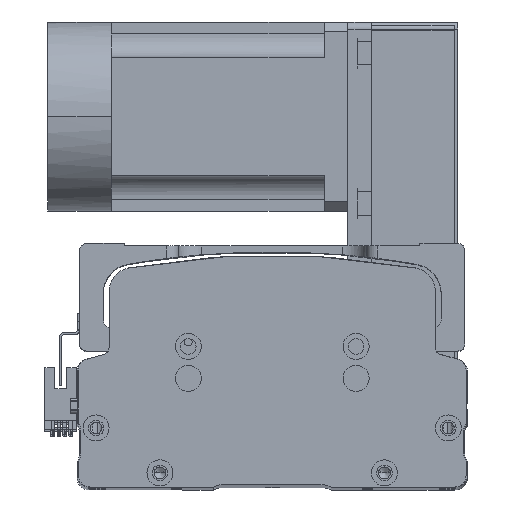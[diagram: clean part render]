
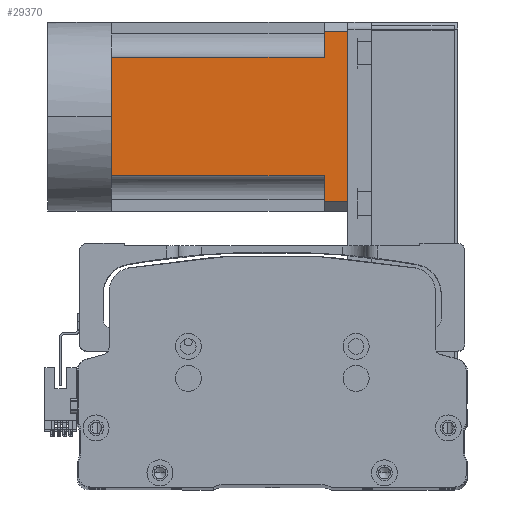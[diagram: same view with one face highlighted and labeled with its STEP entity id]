
A CAD part, top view. The second image highlights one B-rep face of the part: STEP entity #29370.
In plain terms, the highlighted planar face has unit normal (0, 0, 1) as drawn and (0, 0, -1) by its records, which use the part's own axes.
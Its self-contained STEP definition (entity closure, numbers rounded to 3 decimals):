
#1552 = LINE ( 'NONE', #14051, #51547 ) ;
#2871 = DIRECTION ( 'NONE',  ( -1., 0., 0. ) ) ;
#3395 = VECTOR ( 'NONE', #2871, 1000. ) ;
#4159 = EDGE_CURVE ( 'NONE', #24482, #9516, #4427, .T. ) ;
#4243 = VECTOR ( 'NONE', #59757, 1000. ) ;
#4427 = LINE ( 'NONE', #5441, #41479 ) ;
#4454 = CARTESIAN_POINT ( 'NONE',  ( 25., -27., -40. ) ) ;
#5357 = CARTESIAN_POINT ( 'NONE',  ( 25., 90., -40. ) ) ;
#5441 = CARTESIAN_POINT ( 'NONE',  ( 36., -27., -40. ) ) ;
#5910 = EDGE_CURVE ( 'NONE', #35119, #33433, #62437, .T. ) ;
#6355 = CARTESIAN_POINT ( 'NONE',  ( -40., 0., -40. ) ) ;
#7498 = ORIENTED_EDGE ( 'NONE', *, *, #42414, .T. ) ;
#8045 = DIRECTION ( 'NONE',  ( -1., 0., 0. ) ) ;
#8425 = ORIENTED_EDGE ( 'NONE', *, *, #54812, .T. ) ;
#9516 = VERTEX_POINT ( 'NONE', #43490 ) ;
#9900 = VERTEX_POINT ( 'NONE', #18074 ) ;
#9911 = VERTEX_POINT ( 'NONE', #47205 ) ;
#10065 = VERTEX_POINT ( 'NONE', #5357 ) ;
#10492 = ORIENTED_EDGE ( 'NONE', *, *, #5910, .T. ) ;
#10529 = EDGE_CURVE ( 'NONE', #10065, #58758, #36006, .T. ) ;
#11501 = CARTESIAN_POINT ( 'NONE',  ( -40., -27., -40. ) ) ;
#13024 = VECTOR ( 'NONE', #17657, 1000. ) ;
#14051 = CARTESIAN_POINT ( 'NONE',  ( -25., -27., -40. ) ) ;
#15742 = EDGE_CURVE ( 'NONE', #58758, #9911, #40478, .T. ) ;
#17102 = LINE ( 'NONE', #6355, #4243 ) ;
#17657 = DIRECTION ( 'NONE',  ( -1., 0., 0. ) ) ;
#18074 = CARTESIAN_POINT ( 'NONE',  ( -36., 100., -40. ) ) ;
#20455 = ORIENTED_EDGE ( 'NONE', *, *, #10529, .T. ) ;
#21152 = ORIENTED_EDGE ( 'NONE', *, *, #29517, .F. ) ;
#21169 = ORIENTED_EDGE ( 'NONE', *, *, #34540, .T. ) ;
#21233 = DIRECTION ( 'NONE',  ( 0., 0., -1. ) ) ;
#22352 = EDGE_LOOP ( 'NONE', ( #21152, #31120, #7498, #20455, #26362, #8425, #21169, #10492, #33470 ) ) ;
#23139 = VECTOR ( 'NONE', #38257, 1000. ) ;
#24482 = VERTEX_POINT ( 'NONE', #47879 ) ;
#24511 = CARTESIAN_POINT ( 'NONE',  ( -40., 90., -40. ) ) ;
#26362 = ORIENTED_EDGE ( 'NONE', *, *, #15742, .T. ) ;
#27397 = LINE ( 'NONE', #51489, #13024 ) ;
#28149 = CARTESIAN_POINT ( 'NONE',  ( 25., 0., -40. ) ) ;
#29370 = ADVANCED_FACE ( 'NONE', ( #50876 ), #50214, .T. ) ;
#29517 = EDGE_CURVE ( 'NONE', #24482, #9900, #27397, .T. ) ;
#31120 = ORIENTED_EDGE ( 'NONE', *, *, #4159, .T. ) ;
#33433 = VERTEX_POINT ( 'NONE', #51211 ) ;
#33470 = ORIENTED_EDGE ( 'NONE', *, *, #49786, .T. ) ;
#34540 = EDGE_CURVE ( 'NONE', #36003, #35119, #1552, .T. ) ;
#35119 = VERTEX_POINT ( 'NONE', #43084 ) ;
#36003 = VERTEX_POINT ( 'NONE', #51458 ) ;
#36006 = LINE ( 'NONE', #4454, #23139 ) ;
#37013 = CARTESIAN_POINT ( 'NONE',  ( -40., 90., -40. ) ) ;
#38257 = DIRECTION ( 'NONE',  ( 0., -1., 0. ) ) ;
#39072 = VECTOR ( 'NONE', #41355, 1000. ) ;
#39105 = DIRECTION ( 'NONE',  ( -1., 0., 0. ) ) ;
#40478 = LINE ( 'NONE', #51325, #3395 ) ;
#41355 = DIRECTION ( 'NONE',  ( 0., 1., 0. ) ) ;
#41479 = VECTOR ( 'NONE', #58241, 1000. ) ;
#42414 = EDGE_CURVE ( 'NONE', #9516, #10065, #54345, .T. ) ;
#43011 = DIRECTION ( 'NONE',  ( 0., 1., 0. ) ) ;
#43084 = CARTESIAN_POINT ( 'NONE',  ( -25., 90., -40. ) ) ;
#43490 = CARTESIAN_POINT ( 'NONE',  ( 36., 90., -40. ) ) ;
#47205 = CARTESIAN_POINT ( 'NONE',  ( 0., 0., -40. ) ) ;
#47879 = CARTESIAN_POINT ( 'NONE',  ( 36., 100., -40. ) ) ;
#48543 = AXIS2_PLACEMENT_3D ( 'NONE', #11501, #21233, #55058 ) ;
#49786 = EDGE_CURVE ( 'NONE', #33433, #9900, #51949, .T. ) ;
#50214 = PLANE ( 'NONE',  #48543 ) ;
#50876 = FACE_OUTER_BOUND ( 'NONE', #22352, .T. ) ;
#51171 = VECTOR ( 'NONE', #39105, 1000. ) ;
#51211 = CARTESIAN_POINT ( 'NONE',  ( -36., 90., -40. ) ) ;
#51325 = CARTESIAN_POINT ( 'NONE',  ( -40., 0., -40. ) ) ;
#51458 = CARTESIAN_POINT ( 'NONE',  ( -25., 0., -40. ) ) ;
#51489 = CARTESIAN_POINT ( 'NONE',  ( -40., 100., -40. ) ) ;
#51547 = VECTOR ( 'NONE', #43011, 1000. ) ;
#51949 = LINE ( 'NONE', #55702, #39072 ) ;
#52841 = VECTOR ( 'NONE', #8045, 1000. ) ;
#54345 = LINE ( 'NONE', #37013, #52841 ) ;
#54812 = EDGE_CURVE ( 'NONE', #9911, #36003, #17102, .T. ) ;
#55058 = DIRECTION ( 'NONE',  ( -1., 0., 0. ) ) ;
#55702 = CARTESIAN_POINT ( 'NONE',  ( -36., -27., -40. ) ) ;
#58241 = DIRECTION ( 'NONE',  ( 0., -1., 0. ) ) ;
#58758 = VERTEX_POINT ( 'NONE', #28149 ) ;
#59757 = DIRECTION ( 'NONE',  ( -1., 0., 0. ) ) ;
#62437 = LINE ( 'NONE', #24511, #51171 ) ;
